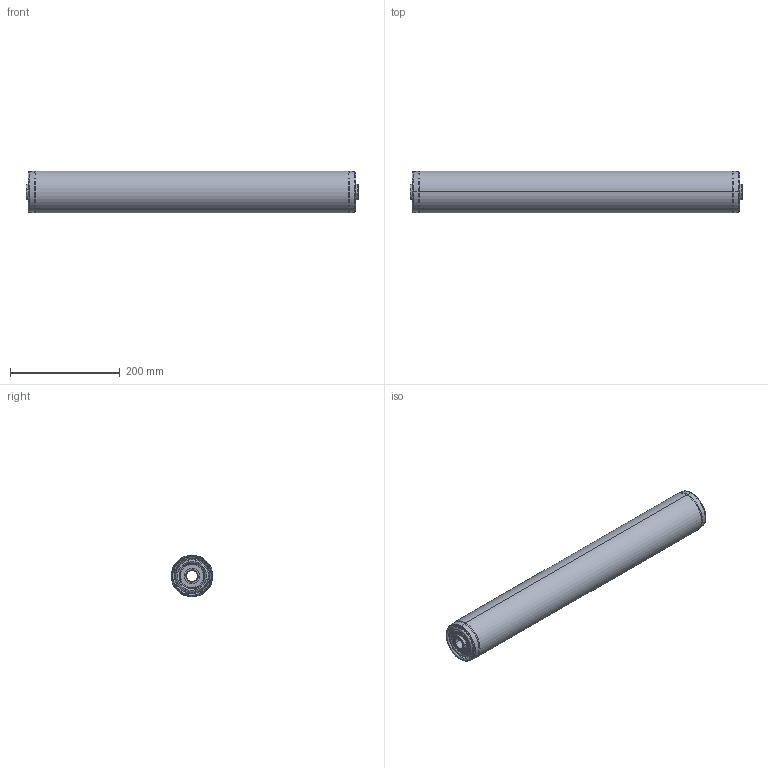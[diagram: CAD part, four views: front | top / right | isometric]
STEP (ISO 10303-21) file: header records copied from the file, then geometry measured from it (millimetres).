
FILE_DESCRIPTION (( 'STEP AP203' ), '1' );
FILE_NAME ('87266 u.a.STEP', '2013-08-21T12:00:16', ( 'John' ), ( 'Hewlett-Packard Company' ), 'SwSTEP 2.0', 'SolidWorks 2007', '' );
FILE_SCHEMA (( 'CONFIG_CONTROL_DESIGN' ));
Length unit declared in the file: millimetre
Products named in the file (4): Rulle 76 x 600 u.g; 87266 u.a; Lagergavel pl廞 76mm u.l.; K20
Assembly tree (5 placements, depth 2):
  87266 u.a
    Lagergavel pl廞 76mm u.l.  x2
    K20  x2
    Rulle 76 x 600 u.g
Bounding box: 605 x 76 x 76 mm (x, y, z)
Volume: 502951.4 mm3; surface area: 317016.8 mm2
Topology: 5 solids, 5 shells, 138 faces, 276 edges, 164 vertices
Faces by surface type: torus 60, cylinder 44, plane 26, cone 8
Entity records: 2496 total; most frequent: DIRECTION 442, CARTESIAN_POINT 326, ORIENTED_EDGE 304, AXIS2_PLACEMENT_3D 206, EDGE_CURVE 152, CIRCLE 122, EDGE_LOOP 90, VERTEX_POINT 90
